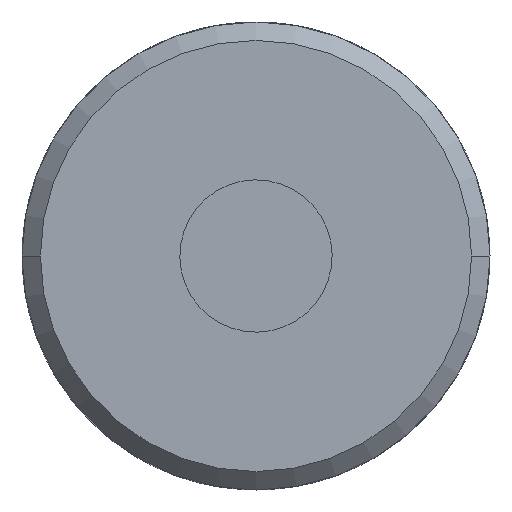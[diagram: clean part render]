
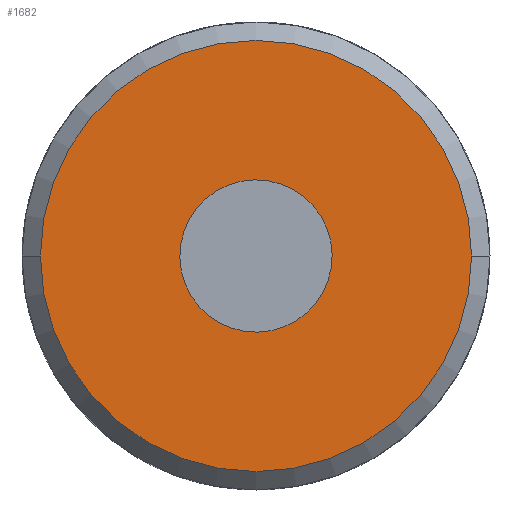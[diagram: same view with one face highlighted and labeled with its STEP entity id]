
A CAD part, left-side view. The second image highlights one B-rep face of the part: STEP entity #1682.
In plain terms, the highlighted planar face has unit normal (-1, 0, 0).
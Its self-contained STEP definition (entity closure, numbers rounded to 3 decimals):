
#63=AXIS2_PLACEMENT_3D('Circle Axis2P3D',#61,#62,$) ;
#97=AXIS2_PLACEMENT_3D('Circle Axis2P3D',#95,#96,$) ;
#1658=AXIS2_PLACEMENT_3D('Plane Axis2P3D',#1655,#1656,#1657) ;
#1662=AXIS2_PLACEMENT_3D('Circle Axis2P3D',#1660,#1661,$) ;
#1671=AXIS2_PLACEMENT_3D('Circle Axis2P3D',#1669,#1670,$) ;
#61=CARTESIAN_POINT('Axis2P3D Location',(0.,0.,0.)) ;
#65=CARTESIAN_POINT('Vertex',(0.,-1.814,-0.991)) ;
#67=CARTESIAN_POINT('Vertex',(0.,1.814,0.991)) ;
#95=CARTESIAN_POINT('Axis2P3D Location',(0.,0.,0.)) ;
#1655=CARTESIAN_POINT('Axis2P3D Location',(0.,0.,0.)) ;
#1660=CARTESIAN_POINT('Axis2P3D Location',(0.,0.,0.)) ;
#1664=CARTESIAN_POINT('Vertex',(0.,-5.85,0.)) ;
#1666=CARTESIAN_POINT('Vertex',(0.,5.85,0.)) ;
#1669=CARTESIAN_POINT('Axis2P3D Location',(0.,0.,0.)) ;
#62=DIRECTION('Axis2P3D Direction',(1.,0.,-0.)) ;
#96=DIRECTION('Axis2P3D Direction',(1.,0.,-0.)) ;
#1656=DIRECTION('Axis2P3D Direction',(1.,0.,0.)) ;
#1657=DIRECTION('Axis2P3D XDirection',(0.,1.,0.)) ;
#1661=DIRECTION('Axis2P3D Direction',(1.,0.,0.)) ;
#1670=DIRECTION('Axis2P3D Direction',(1.,0.,0.)) ;
#1675=ORIENTED_EDGE('',*,*,#1668,.F.) ;
#1676=ORIENTED_EDGE('',*,*,#1673,.F.) ;
#1679=ORIENTED_EDGE('',*,*,#69,.T.) ;
#1680=ORIENTED_EDGE('',*,*,#99,.T.) ;
#1681=FACE_BOUND('',#1678,.T.) ;
#1682=ADVANCED_FACE('PartBody',(#1677,#1681),#1659,.F.) ;
#64=CIRCLE('generated circle',#63,2.067) ;
#98=CIRCLE('generated circle',#97,2.067) ;
#1663=CIRCLE('generated circle',#1662,5.85) ;
#1672=CIRCLE('generated circle',#1671,5.85) ;
#69=EDGE_CURVE('',#66,#68,#64,.T.) ;
#99=EDGE_CURVE('',#68,#66,#98,.T.) ;
#1668=EDGE_CURVE('',#1665,#1667,#1663,.T.) ;
#1673=EDGE_CURVE('',#1667,#1665,#1672,.T.) ;
#1674=EDGE_LOOP('',(#1675,#1676)) ;
#1678=EDGE_LOOP('',(#1679,#1680)) ;
#1677=FACE_OUTER_BOUND('',#1674,.T.) ;
#1659=PLANE('Plane',#1658) ;
#66=VERTEX_POINT('',#65) ;
#68=VERTEX_POINT('',#67) ;
#1665=VERTEX_POINT('',#1664) ;
#1667=VERTEX_POINT('',#1666) ;
